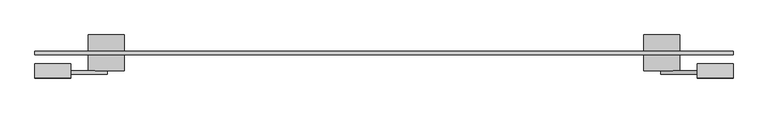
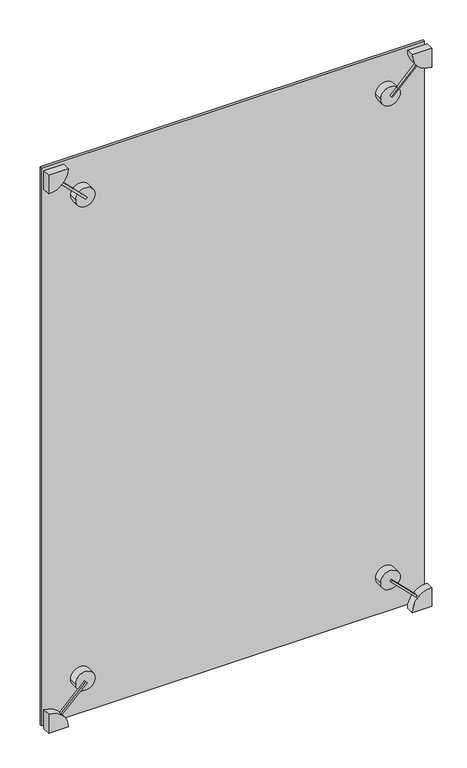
"""IFC4 building model written with IfcOpenShell, lengths in millimetres: plate geometry, 点爪式幕墙嵌板 : 点爪式幕墙嵌板."""

from ifc_helpers import new_model, si_unit, point, frame, frame_2d, origin, origin_with_axes, place, context, project, spatial, polyline, circle_curve, trimmed, segment, composite_curve, outline, extrude, source, transform, mapped, element, save
from ifc_brep_helpers import plane_surface, cylinder_surface, advanced_brep


def plate_8cc356e0(model_context):
    return source(origin(), model_context, "Body", "SolidModel", [
        extrude(outline(polyline([(0.0, -10.0), (0.0, 0.0), (10.0, 0.0), (10.0, -10.0), (0.0, -10.0)])), frame((-908.7667022, -60.0, 73.3043656), z_axis=(0.7071067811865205, 0.0, 0.7071067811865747), x_axis=(0.0, 1.0, 0.0)), (0.0, 0.0, 1.0), 181.331972),
        extrude(outline(composite_curve([segment(trimmed(circle_curve(frame_2d((0.0, -975.0)), 100.0), [point((0.0, -875.0))], [point((100.0, -975.0))], False, "CARTESIAN"), True, "CONTINUOUS"), segment(polyline([(100.0, -975.0), (0.0, -975.0), (0.0, -875.0)]), True, "CONTINUOUS")], self_intersect=False)), frame((0.0, -70.0, 0.0), z_axis=(0.0, 1.0, 0.0), x_axis=(0.0, 0.0, 1.0)), (0.0, 0.0, 1.0), 40.0),
        extrude(outline(composite_curve([segment(trimmed(circle_curve(frame_2d((199.0051024, -775.9948976)), 50.0), [point((199.0051024, -725.9948976))], [point((199.0051024, -825.9948976))], False, "CARTESIAN"), True, "CONTINUOUS"), segment(trimmed(circle_curve(frame_2d((199.0051024, -775.9948976)), 50.0), [point((199.0051024, -825.9948976))], [point((199.0051024, -725.9948976))], False, "CARTESIAN"), True, "CONTINUOUS")], self_intersect=False)), frame((0.0, -50.0, 0.0), z_axis=(0.0, 1.0, 0.0), x_axis=(0.0, 0.0, 1.0)), (0.0, 0.0, 1.0), 100.0),
        extrude(outline(polyline([(0.0, -181.3319719), (0.0, 0.0), (10.0, 0.0), (10.0, -181.3319719), (0.0, -181.3319719)])), frame((773.4745674, -60.0, 194.4543648), z_axis=(0.7071067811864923, 0.0, 0.7071067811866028), x_axis=(0.0, 1.0, 0.0)), (0.0, 0.0, 1.0), 10.0),
        extrude(outline(composite_curve([segment(polyline([(0.0, 875.0), (0.0, 975.0), (100.0, 975.0)]), True, "CONTINUOUS"), segment(trimmed(circle_curve(frame_2d((0.0, 975.0)), 100.0), [point((100.0, 975.0))], [point((0.0, 875.0))], False, "CARTESIAN"), True, "CONTINUOUS")], self_intersect=False)), frame((0.0, -70.0, 0.0), z_axis=(0.0, 1.0, 0.0), x_axis=(0.0, 0.0, 1.0)), (0.0, 0.0, 1.0), 40.0),
        extrude(outline(composite_curve([segment(trimmed(circle_curve(frame_2d((199.0051024, 775.9948976)), 50.0), [point((199.0051024, 725.9948976))], [point((199.0051024, 825.9948976))], False, "CARTESIAN"), True, "CONTINUOUS"), segment(trimmed(circle_curve(frame_2d((199.0051024, 775.9948976)), 50.0), [point((199.0051024, 825.9948976))], [point((199.0051024, 725.9948976))], False, "CARTESIAN"), True, "CONTINUOUS")], self_intersect=False)), frame((0.0, -50.0, 0.0), z_axis=(0.0, 1.0, 0.0), x_axis=(0.0, 0.0, 1.0)), (0.0, 0.0, 1.0), 100.0),
        extrude(outline(polyline([(0.0, -181.3319719), (0.0, 0.0), (10.0, 0.0), (10.0, -181.3319719), (0.0, -181.3319719)])), frame((-908.7667022, -60.0, 2926.6956344), z_axis=(0.7071067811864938, 0.0, 0.7071067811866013), x_axis=(0.0, 1.0, 0.0)), (0.0, 0.0, 1.0), 10.0),
        extrude(outline(composite_curve([segment(polyline([(3000.0, -875.0), (3000.0, -975.0), (2900.0, -975.0)]), True, "CONTINUOUS"), segment(trimmed(circle_curve(frame_2d((3000.0, -975.0)), 100.0), [point((2900.0, -975.0))], [point((3000.0, -875.0))], False, "CARTESIAN"), True, "CONTINUOUS")], self_intersect=False)), frame((0.0, -70.0, 0.0), z_axis=(0.0, 1.0, 0.0), x_axis=(0.0, 0.0, 1.0)), (0.0, 0.0, 1.0), 40.0),
        extrude(outline(composite_curve([segment(trimmed(circle_curve(frame_2d((2800.9948976, -775.9948976)), 50.0), [point((2800.9948976, -725.9948976))], [point((2800.9948976, -825.9948976))], False, "CARTESIAN"), True, "CONTINUOUS"), segment(trimmed(circle_curve(frame_2d((2800.9948976, -775.9948976)), 50.0), [point((2800.9948976, -825.9948976))], [point((2800.9948976, -725.9948976))], False, "CARTESIAN"), True, "CONTINUOUS")], self_intersect=False)), frame((0.0, -50.0, 0.0), z_axis=(0.0, 1.0, 0.0), x_axis=(0.0, 0.0, 1.0)), (0.0, 0.0, 1.0), 100.0),
        advanced_brep(
        [(725.9948976, -50.0, 2800.9948976), (825.9948976, -50.0, 2800.9948976), (814.7085497, -50.0, 2832.6374819), (780.5456352, -50.0, 2798.4745674), (773.4745674, -50.0, 2805.5456352), (807.6374819, -50.0, 2839.7085497), (725.9948976, 50.0, 2800.9948976), (825.9948976, 50.0, 2800.9948976), (773.4745674, -60.0, 2805.5456352), (780.5456352, -60.0, 2798.4745674), (907.9132994, -60.0, 2925.8422316), (900.8422316, -60.0, 2932.9132994), (900.8422316, -50.0, 2932.9132994), (907.9132994, -50.0, 2925.8422316), (875.0, -70.0, 3000.0), (975.0, -70.0, 2900.0), (975.0, -70.0, 3000.0), (875.0, -30.0, 3000.0), (975.0, -30.0, 3000.0), (975.0, -30.0, 2900.0)],
        [
            (0, 1, circle_curve(frame((775.9948976, -50.0, 2800.9948976), z_axis=(0.0, -1.0, 0.0), x_axis=(1.0, 0.0, 0.0)), 50.0)),
            (1, 2, circle_curve(frame((775.9948976, -50.0, 2800.9948976), z_axis=(0.0, -1.0, 0.0), x_axis=(1.0, 0.0, 0.0)), 50.0)),
            (2, 3),
            (3, 4),
            (4, 5),
            (5, 0, circle_curve(frame((775.9948976, -50.0, 2800.9948976), z_axis=(0.0, -1.0, 0.0), x_axis=(1.0, 0.0, 0.0)), 50.0)),
            (6, 7, circle_curve(frame((775.9948976, 50.0, 2800.9948976), z_axis=(0.0, 1.0, 0.0), x_axis=(1.0, 0.0, 0.0)), 50.0)),
            (7, 6, circle_curve(frame((775.9948976, 50.0, 2800.9948976), z_axis=(0.0, 1.0, 0.0), x_axis=(1.0, 0.0, 0.0)), 50.0)),
            (0, 6),
            (7, 1),
            (5, 2, circle_curve(frame((775.9948976, -50.0, 2800.9948976), z_axis=(0.0, 1.0, 0.0), x_axis=(1.0, 0.0, 0.0)), 50.0)),
            (8, 9),
            (9, 10),
            (10, 11, circle_curve(frame((975.0, -60.0, 3000.0), z_axis=(0.0, 1.0, 0.0), x_axis=(1.0, 0.0, 0.0)), 100.0)),
            (11, 8),
            (5, 12),
            (12, 13, circle_curve(frame((975.0, -50.0, 3000.0), z_axis=(0.0, -1.0, 0.0), x_axis=(1.0, 0.0, 0.0)), 100.0)),
            (13, 2),
            (4, 8),
            (11, 12),
            (3, 9),
            (13, 10),
            (14, 15, circle_curve(frame((975.0, -70.0, 3000.0), z_axis=(0.0, -1.0, 0.0), x_axis=(1.0, 0.0, 0.0)), 100.0)),
            (15, 16),
            (16, 14),
            (17, 18),
            (18, 19),
            (19, 17, circle_curve(frame((975.0, -30.0, 3000.0), z_axis=(0.0, 1.0, 0.0), x_axis=(1.0, 0.0, 0.0)), 100.0)),
            (14, 17),
            (19, 15),
            (18, 16),
        ],
        [
            plane_surface(frame((825.9948976, -50.0, 2800.9948976), z_axis=(0.0, -1.0, 0.0), x_axis=(0.0, 0.0, 1.0))),
            plane_surface(frame((825.9948976, 50.0, 2800.9948976), z_axis=(0.0, 1.0, 0.0), x_axis=(0.0, 0.0, -1.0))),
            cylinder_surface(frame((775.9948976, 50.0, 2800.9948976), z_axis=(0.0, -1.0, 0.0), x_axis=(1.0, 0.0, 0.0)), 50.0),
            plane_surface(frame((773.4745674, -60.0, 2805.5456352), z_axis=(0.0, -1.0000000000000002, 0.0), x_axis=(-0.7071067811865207, 0.0, -0.7071067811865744))),
            plane_surface(frame((773.4745674, -50.0, 2805.5456352), z_axis=(0.0, 1.0000000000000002, 0.0), x_axis=(0.7071067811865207, 0.0, 0.7071067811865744))),
            plane_surface(frame((901.6956344, -60.0, 2933.7667022), z_axis=(-0.7071067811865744, 0.0, 0.7071067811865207), x_axis=(0.0, 1.0, 0.0))),
            plane_surface(frame((773.4745674, -60.0, 2805.5456352), z_axis=(-0.7071067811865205, 0.0, -0.7071067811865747), x_axis=(0.0, 1.0, 0.0))),
            plane_surface(frame((780.5456352, -60.0, 2798.4745674), z_axis=(0.7071067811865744, 0.0, -0.7071067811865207), x_axis=(0.0, 1.0, 0.0))),
            plane_surface(frame((1075.0, -70.0, 3000.0), z_axis=(0.0, -1.0, 0.0), x_axis=(0.0, 0.0, 1.0))),
            plane_surface(frame((1075.0, -30.0, 3000.0), z_axis=(0.0, 1.0, 0.0), x_axis=(0.0, 0.0, -1.0))),
            cylinder_surface(frame((975.0, -30.0, 3000.0), z_axis=(0.0, -1.0, 0.0), x_axis=(1.0, 0.0, 0.0)), 100.0),
            plane_surface(frame((975.0, -70.0, 2900.0), z_axis=(1.0, 0.0, 0.0), x_axis=(0.0, 1.0, 0.0))),
            plane_surface(frame((975.0, -70.0, 3000.0), z_axis=(0.0, 0.0, 1.0), x_axis=(0.0, 1.0, 0.0))),
        ],
        [
            (0, [[1, 2, 3, 4, 5, 6]]),
            (1, [[7, 8]]),
            (2, [[-1, 9, -8, 10]]),
            (2, [[-7, -9, -6, 11, -2, -10]]),
            (3, [[12, 13, 14, 15]]),
            (4, [[-11, 16, 17, 18]]),
            (5, [[19, -15, 20, -16, -5]]),
            (6, [[-12, -19, -4, 21]]),
            (7, [[-21, -3, -18, 22, -13]]),
            (8, [[23, 24, 25]]),
            (9, [[26, 27, 28]]),
            (10, [[-23, 29, -28, 30], [-14, -22, -17, -20]]),
            (11, [[-24, -30, -27, 31]]),
            (12, [[-25, -31, -26, -29]]),
        ],
    ),
        extrude(outline(polyline([(975.0, 5.0), (975.0, -5.0), (-975.0, -5.0), (-975.0, 5.0), (975.0, 5.0)])), origin_with_axes(), (0.0, 0.0, 1.0), 3000.0),
    ])


if __name__ == "__main__":
    model = new_model("IFC4")
    model_context = context("Model", 3, world=origin())
    ifc_project = project(units=[si_unit("LENGTHUNIT", "METRE", prefix="MILLI")], contexts=[model_context])
    site = spatial("IfcSite", under=ifc_project)
    building = spatial("IfcBuilding", under=site)
    placement = place(None, origin())
    plate_shape = plate_8cc356e0(model_context)
    element("IfcPlate", 1, ObjectType="点爪式幕墙嵌板 : 点爪式幕墙嵌板", at=placement, inside=building, context=model_context, shape_type="MappedRepresentation", body=[
        mapped(plate_shape, transform((0.0, 0.0, 0.0), x_axis=(1.0, 0.0, 0.0), y_axis=(0.0, 1.0, 0.0), z_axis=(0.0, 0.0, 1.0))),
    ])
    save(model, "model.ifc")
